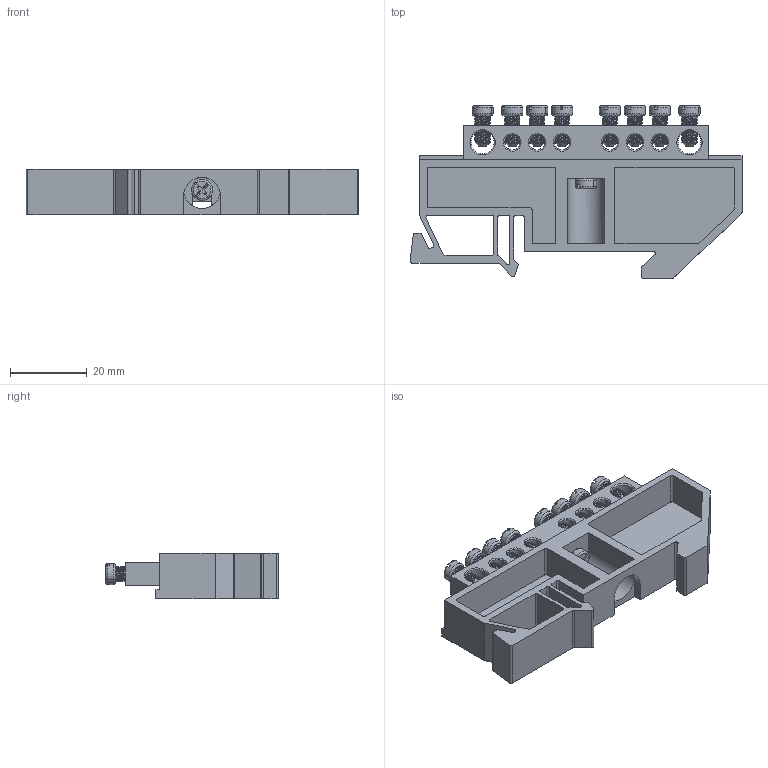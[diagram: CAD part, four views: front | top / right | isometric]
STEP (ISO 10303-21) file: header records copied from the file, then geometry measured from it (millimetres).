
FILE_DESCRIPTION (( 'STEP AP214' ), '1' );
FILE_NAME ('Øèíà íóëåâàÿ ñ DIN èçîëÿòîðîì 6õ9 8.STEP', '2020-02-06T11:31:11', ( '' ), ( '' ), 'SwSTEP 2.0', 'SolidWorks 2018', '' );
FILE_SCHEMA (( 'AUTOMOTIVE_DESIGN' ));
Length unit declared in the file: millimetre
Products named in the file (5): Øèíà íóëåâàÿ ñ DIN èçîëÿòîðîì 6õ9 8; DIN èçîëÿòîð; Øèíà íóëåâàÿ ñ êðåïåæíûì îòâåðñòèåì ïî öåíòðó 6õ9 8-1_1; Âèíò ì4; Øèíà 6õ9 8 1
Assembly tree (12 placements, depth 3):
  Øèíà íóëåâàÿ ñ DIN èçîëÿòîðîì 6õ9 8
    Øèíà íóëåâàÿ ñ êðåïåæíûì îòâåðñòèåì ïî öåíòðó 6õ9 8-1_1
      Øèíà 6õ9 8 1
      Âèíò ì4  x8
    Âèíò ì4
    DIN èçîëÿòîð
Bounding box: 86.63 x 45.1 x 12 mm (x, y, z)
Volume: 15315.3 mm3; surface area: 15046.8 mm2
Topology: 11 solids, 11 shells, 844 faces, 2341 edges, 1502 vertices
Faces by surface type: plane 319, cylinder 302, cone 113, torus 64, bspline 36, sphere 10
Entity records: 11583 total; most frequent: CARTESIAN_POINT 4077, ORIENTED_EDGE 1508, DIRECTION 1494, EDGE_CURVE 754, AXIS2_PLACEMENT_3D 546, VERTEX_POINT 478, VECTOR 402, LINE 402
